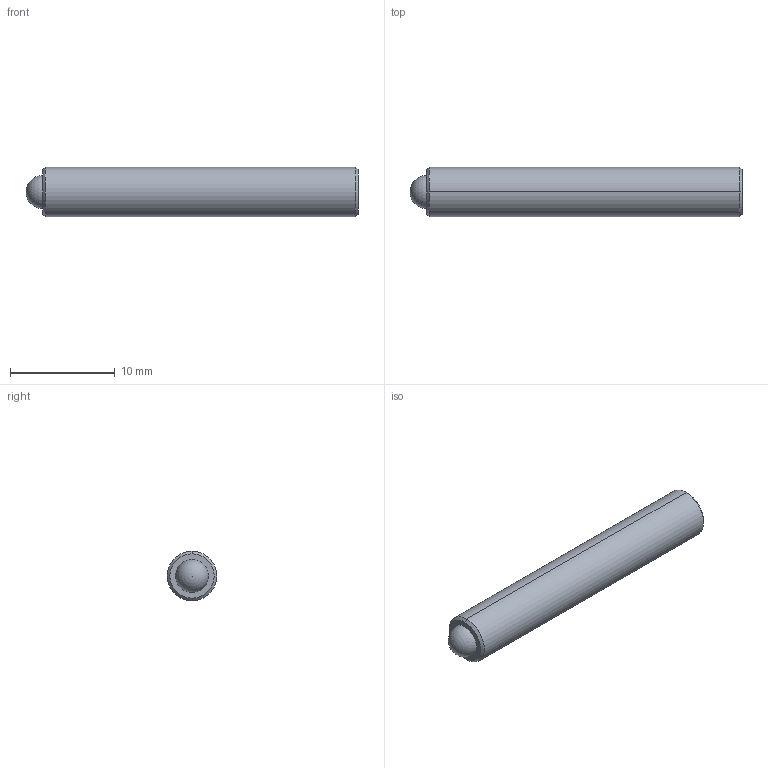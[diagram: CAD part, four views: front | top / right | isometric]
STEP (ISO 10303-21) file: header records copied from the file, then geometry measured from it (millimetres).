
FILE_DESCRIPTION (( 'STEP AP214' ), '1' );
FILE_NAME ('TS187-100-1250.STEP', '2013-02-11T16:01:22', ( 'workpc' ), ( 'Microsoft' ), 'SwSTEP 2.0', 'SolidWorks 2013', '' );
FILE_SCHEMA (( 'AUTOMOTIVE_DESIGN' ));
Length unit declared in the file: inch
Products named in the file (1): TS187-100-1250
Bounding box: 31.75 x 4.75 x 4.75 mm (x, y, z)
Volume: 529.9 mm3; surface area: 544.1 mm2
Topology: 2 solids, 2 shells, 20 faces, 45 edges, 29 vertices
Faces by surface type: plane 10, cylinder 4, cone 4, sphere 2
Entity records: 599 total; most frequent: DIRECTION 96, CARTESIAN_POINT 87, ORIENTED_EDGE 80, EDGE_CURVE 40, AXIS2_PLACEMENT_3D 35, VECTOR 26, LINE 26, VERTEX_POINT 26
